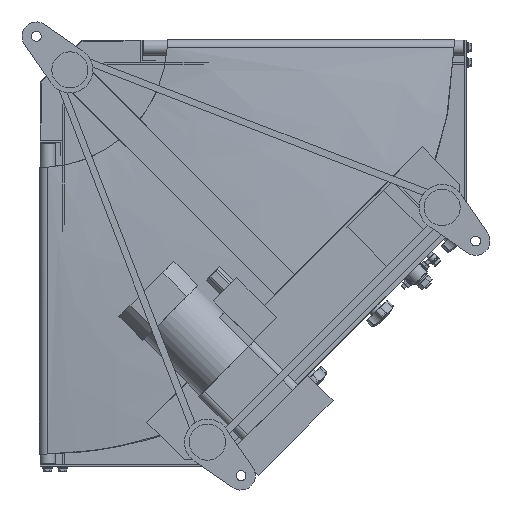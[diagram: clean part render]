
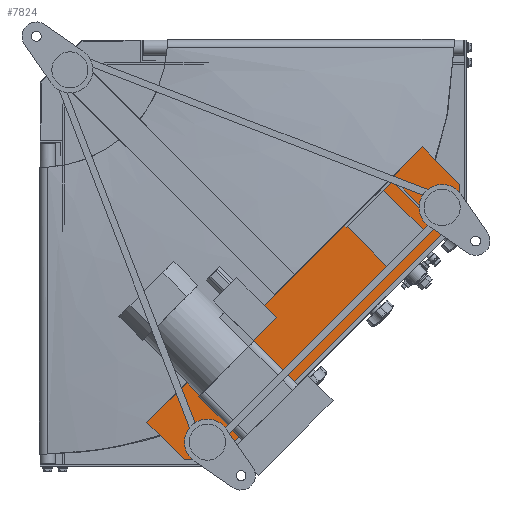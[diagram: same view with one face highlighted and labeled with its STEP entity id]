
A CAD part, front view. The second image highlights one B-rep face of the part: STEP entity #7824.
In plain terms, the highlighted planar face has unit normal (0, -1, 0).
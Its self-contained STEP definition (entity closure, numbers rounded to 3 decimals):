
#379 = VECTOR ( 'NONE', #2989, 1000. ) ;
#946 = VERTEX_POINT ( 'NONE', #22690 ) ;
#1530 = CARTESIAN_POINT ( 'NONE',  ( 191.272, -167.5, -556.847 ) ) ;
#2113 = ORIENTED_EDGE ( 'NONE', *, *, #10017, .F. ) ;
#2361 = LINE ( 'NONE', #10303, #26796 ) ;
#2989 = DIRECTION ( 'NONE',  ( 0.707, 0., 0.707 ) ) ;
#3268 = CARTESIAN_POINT ( 'NONE',  ( 233.699, -167.5, -556.847 ) ) ;
#3775 = LINE ( 'NONE', #20666, #30375 ) ;
#3838 = DIRECTION ( 'NONE',  ( 0., 0., 1. ) ) ;
#6399 = CARTESIAN_POINT ( 'NONE',  ( 556.847, -167.5, -233.699 ) ) ;
#6980 = VERTEX_POINT ( 'NONE', #21226 ) ;
#7824 = ADVANCED_FACE ( 'NONE', ( #8914 ), #20560, .F. ) ;
#8026 = DIRECTION ( 'NONE',  ( -0.707, 0., -0.707 ) ) ;
#8104 = VECTOR ( 'NONE', #24123, 1000. ) ;
#8914 = FACE_OUTER_BOUND ( 'NONE', #20821, .T. ) ;
#10017 = EDGE_CURVE ( 'NONE', #6980, #23179, #16169, .T. ) ;
#10303 = CARTESIAN_POINT ( 'NONE',  ( 507.349, -167.5, -141.775 ) ) ;
#13492 = ORIENTED_EDGE ( 'NONE', *, *, #24516, .F. ) ;
#13516 = DIRECTION ( 'NONE',  ( 0., 1., 0. ) ) ;
#14378 = EDGE_CURVE ( 'NONE', #946, #19125, #2361, .T. ) ;
#15716 = EDGE_CURVE ( 'NONE', #23179, #19037, #3775, .T. ) ;
#15768 = ORIENTED_EDGE ( 'NONE', *, *, #15716, .F. ) ;
#15791 = CARTESIAN_POINT ( 'NONE',  ( 556.847, -167.5, -233.699 ) ) ;
#16169 = LINE ( 'NONE', #19200, #8104 ) ;
#16706 = CARTESIAN_POINT ( 'NONE',  ( 556.847, -167.5, -191.272 ) ) ;
#16732 = LINE ( 'NONE', #15791, #29725 ) ;
#17005 = CARTESIAN_POINT ( 'NONE',  ( 141.775, -167.5, -507.349 ) ) ;
#17973 = DIRECTION ( 'NONE',  ( -0.707, 0., 0.707 ) ) ;
#18065 = CARTESIAN_POINT ( 'NONE',  ( 0., -167.5, 0. ) ) ;
#19037 = VERTEX_POINT ( 'NONE', #25059 ) ;
#19125 = VERTEX_POINT ( 'NONE', #16706 ) ;
#19200 = CARTESIAN_POINT ( 'NONE',  ( 191.272, -167.5, -556.847 ) ) ;
#20560 = PLANE ( 'NONE',  #22150 ) ;
#20666 = CARTESIAN_POINT ( 'NONE',  ( 141.775, -167.5, -507.349 ) ) ;
#20821 = EDGE_LOOP ( 'NONE', ( #23042, #21049, #13492, #15768, #2113, #24501 ) ) ;
#21049 = ORIENTED_EDGE ( 'NONE', *, *, #14378, .F. ) ;
#21226 = CARTESIAN_POINT ( 'NONE',  ( 233.699, -167.5, -556.847 ) ) ;
#22150 = AXIS2_PLACEMENT_3D ( 'NONE', #18065, #13516, #3838 ) ;
#22154 = LINE ( 'NONE', #3268, #24405 ) ;
#22606 = LINE ( 'NONE', #17005, #379 ) ;
#22690 = CARTESIAN_POINT ( 'NONE',  ( 507.349, -167.5, -141.775 ) ) ;
#23042 = ORIENTED_EDGE ( 'NONE', *, *, #29978, .F. ) ;
#23179 = VERTEX_POINT ( 'NONE', #1530 ) ;
#24123 = DIRECTION ( 'NONE',  ( -1., 0., 0. ) ) ;
#24405 = VECTOR ( 'NONE', #8026, 1000. ) ;
#24501 = ORIENTED_EDGE ( 'NONE', *, *, #25391, .F. ) ;
#24516 = EDGE_CURVE ( 'NONE', #19037, #946, #22606, .T. ) ;
#25059 = CARTESIAN_POINT ( 'NONE',  ( 141.775, -167.5, -507.349 ) ) ;
#25391 = EDGE_CURVE ( 'NONE', #27315, #6980, #22154, .T. ) ;
#25467 = DIRECTION ( 'NONE',  ( 0., 0., -1. ) ) ;
#26796 = VECTOR ( 'NONE', #26865, 1000. ) ;
#26865 = DIRECTION ( 'NONE',  ( 0.707, 0., -0.707 ) ) ;
#27315 = VERTEX_POINT ( 'NONE', #6399 ) ;
#29725 = VECTOR ( 'NONE', #25467, 1000. ) ;
#29978 = EDGE_CURVE ( 'NONE', #19125, #27315, #16732, .T. ) ;
#30375 = VECTOR ( 'NONE', #17973, 1000. ) ;
